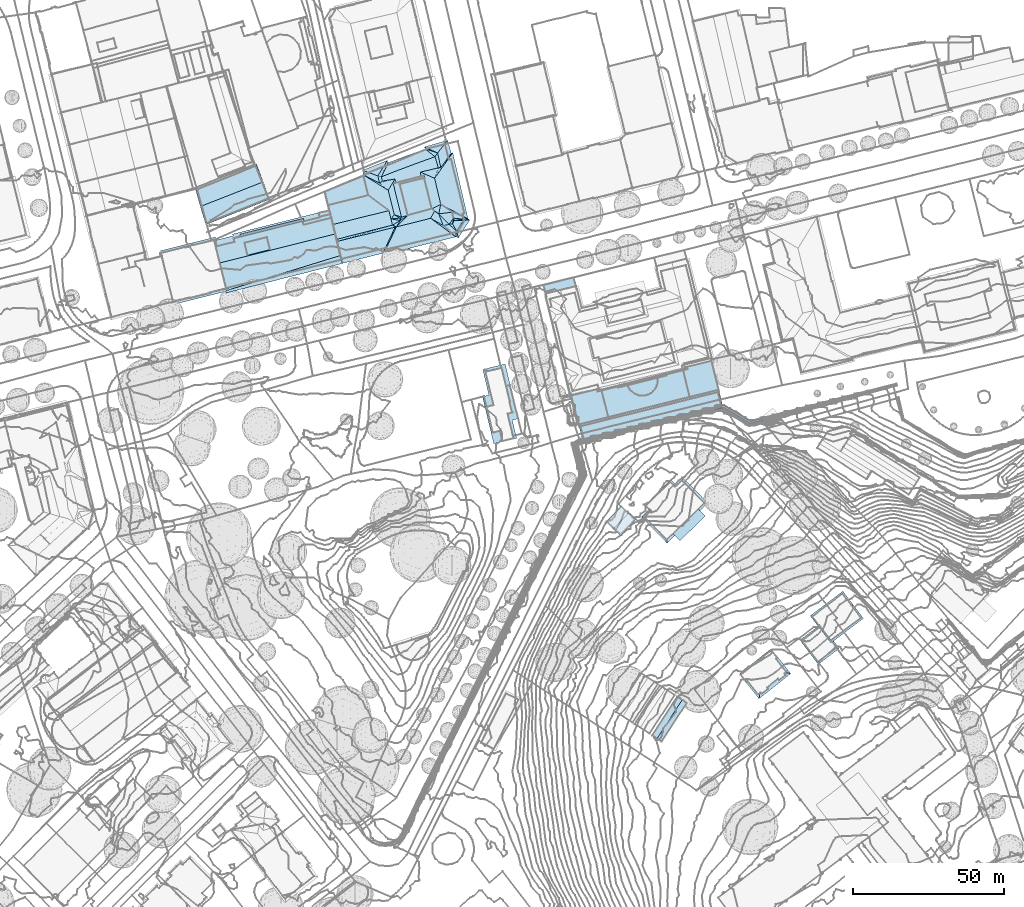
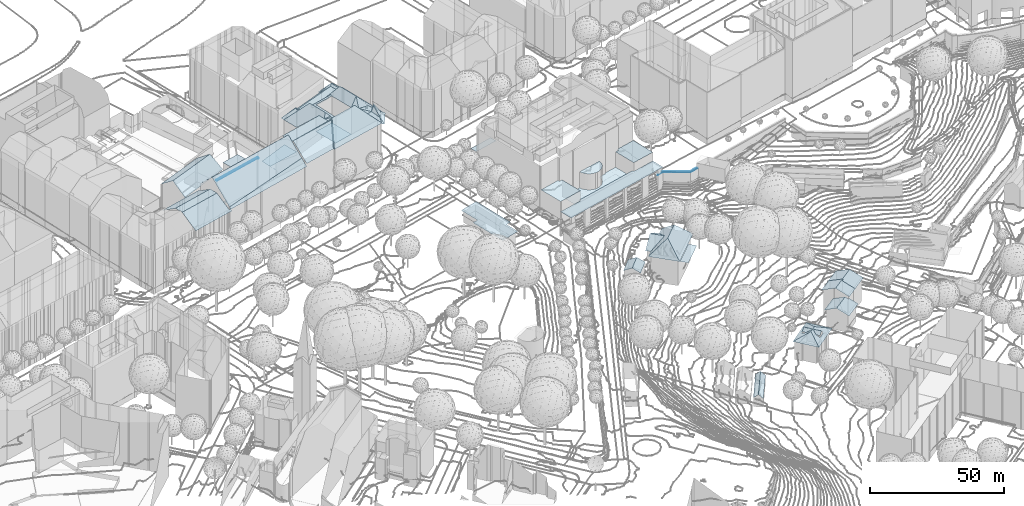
# Not in any storey, part 77 of 477: 26 roofs.
"""IFC4 building model written with IfcOpenShell, lengths in metres."""

from ifc_helpers import new_model, si_unit, frame, origin_with_axes, place, context, subcontext, project, spatial, polygons, element, save


model = new_model("IFC4")

# Units and contexts
model_context = context("Model", 3, precision=1e-05, world=origin_with_axes())
body_context = subcontext(model_context, "Body", "Model", "MODEL_VIEW")
ifc_project = project(units=[si_unit("AREAUNIT", "SQUARE_METRE"), si_unit("LENGTHUNIT", "METRE")], contexts=[model_context])

# Sites, building
site_1_placement = place(None, origin_with_axes())
site_1 = spatial("IfcSite", under=ifc_project, at=site_1_placement, Name="Topoexport Site")
site_2_placement = place(site_1_placement, origin_with_axes())
site_2 = spatial("IfcSite", under=site_1, at=site_2_placement, Name="TPX_BUILDINGS")
building_1_placement = place(site_2_placement, frame((211.8297320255, 101.9383160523, 526.7541), z_axis=(0.0, 0.0, 1.0), x_axis=(1.0, 0.0, 0.0)))
building_1 = spatial("IfcBuilding", under=site_2, at=building_1_placement, Name="Building 18", CompositionType="ELEMENT")

# Roof
roof_1_placement = place(None, frame((211.8297320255, 101.9383160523, 526.7541), z_axis=(0.0, 0.0, 1.0), x_axis=(1.0, 0.0, 0.0)))
element("IfcRoof", 1, at=roof_1_placement, inside=building_1, Name="Roof 60", context=body_context, shape_type="Tessellation", body=[
    polygons([(146.006000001, 221.7910000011, 13.5499), (147.1669999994, 222.0751999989, 13.5499), (146.0230000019, 221.7236000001, 13.5499), (148.7010000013, 222.3691000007, 13.5499), (148.6390000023, 223.2098999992, 13.5499), (147.9849999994, 222.4013999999, 13.5499), (147.8399999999, 223.0126999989, 13.5499), (160.9150000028, 218.754900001, 13.5499), (161.393000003, 218.1689000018, 13.5499), (157.3320000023, 217.1259999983, 13.5499), (157.4409999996, 217.8623000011, 13.5499)], [[[3, 2, 1]], [[2, 3, 4]], [[7, 6, 5]], [[2, 4, 6]], [[10, 9, 8]], [[10, 8, 11]], [[11, 5, 4]], [[4, 5, 6]], [[4, 10, 11]]]),
])

# Building
building_2_placement = place(site_2_placement, frame((336.8067320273, 215.9607160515, 507.462), z_axis=(0.0, 0.0, 1.0), x_axis=(1.0, 0.0, 0.0)))
building_2 = spatial("IfcBuilding", under=site_2, at=building_2_placement, Name="Building 92", CompositionType="ELEMENT")

# Roof
roof_2_placement = place(None, frame((336.8067320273, 215.9607160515, 507.462), z_axis=(0.0, 0.0, 1.0), x_axis=(1.0, 0.0, 0.0)))
element("IfcRoof", 2, at=roof_2_placement, inside=building_2, Name="Roof 0", context=body_context, shape_type="Tessellation", body=[
    polygons([(0.0, 0.0, 4.0656), (8.3090000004, 12.7862000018, 4.0656), (9.8939999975, 11.754900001, 5.5585), (1.5850000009, -1.0311999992, 5.5585), (11.4519999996, 10.7422000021, 3.7816), (3.1429999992, -2.0438999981, 3.7816)], [[[3, 2, 1]], [[1, 4, 3]], [[4, 6, 5]], [[5, 3, 4]]]),
])

# Building
building_3_placement = place(site_2_placement, frame((366.0957320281, 236.0047160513, 506.5151), z_axis=(0.0, 0.0, 1.0), x_axis=(1.0, 0.0, 0.0)))
building_3 = spatial("IfcBuilding", under=site_2, at=building_3_placement, Name="Building 95", CompositionType="ELEMENT")

# Roof
roof_3_placement = place(None, frame((366.0957320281, 236.0047160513, 506.5151), z_axis=(0.0, 0.0, 1.0), x_axis=(1.0, 0.0, 0.0)))
element("IfcRoof", 3, at=roof_3_placement, inside=building_3, Name="Roof 0", context=body_context, shape_type="Tessellation", body=[
    polygons([(10.305999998, -2.427699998, 10.8689), (8.0749999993, -2.2470999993, 9.803), (8.0819999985, 0.3652000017, 10.8689), (9.0289999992, -3.4452999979, 9.803), (10.5029999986, -0.3145000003, 9.803), (11.4569999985, -1.5126999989, 9.803), (9.9329999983, 7.9433999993, 8.4342), (16.5119999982, 0.4678000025, 8.1672), (14.7960000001, 0.6963, 8.8191), (9.3979999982, 1.4131000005, 10.8689), (9.9919999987, 8.6581999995, 8.1672), (6.0289999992, -7.8759999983, 8.1672), (-0.4900000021, 0.3144000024, 8.1672), (0.2569999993, 0.2050999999, 8.4482), (6.7039999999, -0.7324000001, 10.8689), (6.1889999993, -6.1855999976, 8.8061), (5.5029999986, 0.9844000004, 9.803), (4.5529999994, 2.1777000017, 9.803), (5.8299999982, 3.1953000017, 10.8689), (7.930999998, 2.9169999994, 9.803), (6.9809999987, 4.1103000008, 9.803), (6.9809999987, 4.1103000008, 9.0251), (7.686999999, 3.2236000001, 9.6031), (4.5529999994, 2.1777000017, 9.0251), (5.2589999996, 1.2910000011, 9.6031), (9.0289999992, -3.4452999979, 9.0031), (11.4569999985, -1.5126999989, 9.0021), (8.3129999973, -2.5458999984, 9.6031), (10.7410000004, -0.6142999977, 9.6031)], [[[3, 2, 1]], [[4, 1, 2]], [[5, 3, 1]], [[1, 6, 5]], [[9, 8, 7]], [[9, 7, 10]], [[7, 8, 11]], [[14, 13, 12]], [[14, 16, 15]], [[16, 14, 12]], [[19, 18, 17]], [[17, 3, 19]], [[21, 19, 20]], [[3, 20, 19]], [[11, 22, 7]], [[22, 11, 13]], [[7, 22, 23]], [[7, 20, 10]], [[20, 7, 23]], [[10, 20, 3]], [[24, 13, 14]], [[13, 24, 22]], [[24, 14, 25]], [[17, 15, 3]], [[17, 25, 14]], [[14, 15, 17]], [[12, 26, 16]], [[26, 12, 27]], [[16, 26, 28]], [[16, 2, 15]], [[2, 16, 28]], [[15, 2, 3]], [[27, 8, 9]], [[8, 27, 12]], [[27, 9, 29]], [[3, 5, 10]], [[9, 5, 29]], [[5, 9, 10]]]),
])

# Building
building_4_placement = place(site_2_placement, frame((389.7587320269, 255.2674160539, 507.648), z_axis=(0.0, 0.0, 1.0), x_axis=(1.0, 0.0, 0.0)))
building_4 = spatial("IfcBuilding", under=site_2, at=building_4_placement, Name="Building 96", CompositionType="ELEMENT")

# Roof
roof_4_placement = place(None, frame((389.7587320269, 255.2674160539, 507.648), z_axis=(0.0, 0.0, 1.0), x_axis=(1.0, 0.0, 0.0)))
element("IfcRoof", 4, at=roof_4_placement, inside=building_4, Name="Roof 0", context=body_context, shape_type="Tessellation", body=[
    polygons([(-0.7430000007, 0.2694999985, 10.661), (4.5109999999, 4.2304999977, 10.661), (4.9050000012, 3.7089999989, 10.9299), (2.6840000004, -4.2754000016, 13.0067), (7.9470000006, -0.308600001, 13.0067), (10.2269999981, -4.8115000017, 10.9179), (7.436999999, -1.125, 12.8617), (8.1559999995, -0.5850000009, 12.8607), (10.5969999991, -5.2998000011, 10.6609), (6.0439999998, -8.7314999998, 10.6609)], [[[3, 2, 1]], [[5, 3, 4]], [[1, 4, 3]], [[7, 4, 6]], [[5, 7, 8]], [[7, 5, 4]], [[6, 10, 9]], [[6, 4, 10]]]),
])

# Building
building_5_placement = place(site_2_placement, frame((394.6637320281, 258.9764160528, 507.648), z_axis=(0.0, 0.0, 1.0), x_axis=(1.0, 0.0, 0.0)))
building_5 = spatial("IfcBuilding", under=site_2, at=building_5_placement, Name="Building 97", CompositionType="ELEMENT")

# Roof
roof_5_placement = place(None, frame((394.6637320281, 258.9764160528, 507.648), z_axis=(0.0, 0.0, 1.0), x_axis=(1.0, 0.0, 0.0)))
element("IfcRoof", 5, at=roof_5_placement, inside=building_5, Name="Roof 0", context=body_context, shape_type="Tessellation", body=[
    polygons([(0.0, 0.0, 10.9299), (5.1479999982, 4.6992000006, 10.661), (8.5749999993, 0.1543000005, 13.0067), (3.0419999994, -4.0175999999, 13.0067), (-0.3940000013, 0.5214999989, 10.661), (5.3219999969, -8.5205000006, 10.9179), (2.5319999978, -4.8339999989, 12.8617), (3.2509999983, -4.2939999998, 12.8607), (11.9340000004, -4.3018000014, 10.6609), (5.6919999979, -9.0088, 10.6609)], [[[3, 2, 1]], [[3, 1, 4]], [[1, 2, 5]], [[8, 7, 6]], [[6, 10, 9]], [[8, 9, 3]], [[9, 8, 6]], [[8, 3, 4]]]),
])

# Building
building_6_placement = place(site_2_placement, frame((386.3977320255, 247.3445160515, 507.147), z_axis=(0.0, 0.0, 1.0), x_axis=(1.0, 0.0, 0.0)))
building_6 = spatial("IfcBuilding", under=site_2, at=building_6_placement, Name="Building 98", CompositionType="ELEMENT")

# Roof
roof_6_placement = place(None, frame((386.3977320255, 247.3445160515, 507.147), z_axis=(0.0, 0.0, 1.0), x_axis=(1.0, 0.0, 0.0)))
element("IfcRoof", 6, at=roof_6_placement, inside=building_6, Name="Roof 0", context=body_context, shape_type="Tessellation", body=[
    polygons([(7.0370000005, 3.2734999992, 9.0562), (5.950000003, 4.504900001, 8.3482), (6.0480000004, 4.5782000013, 8.3482), (8.0980000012, 1.8731000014, 9.8171), (2.6130000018, -3.4569999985, 10.229), (8.6740000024, 1.1132999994, 10.229), (-0.7829999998, 0.1563000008, 8.0962), (5.5989999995, 4.9678000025, 8.0962), (2.1840000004, -3.7802000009, 10.229), (5.2540000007, -7.8506000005, 8.0962), (9.4880000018, 0.0381000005, 9.6651), (12.2180000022, -2.5995999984, 8.0962), (9.9620000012, 0.3936000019, 9.6641)], [[[3, 2, 1]], [[5, 4, 1]], [[6, 4, 5]], [[2, 8, 7]], [[7, 1, 2]], [[9, 1, 7]], [[1, 9, 5]], [[12, 11, 10]], [[10, 11, 5]], [[9, 10, 5]], [[11, 6, 5]], [[12, 13, 11]]]),
])

# Building
building_7_placement = place(site_2_placement, frame((281.5977320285, 336.7850160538, 537.4764), z_axis=(0.0, 0.0, 1.0), x_axis=(1.0, 0.0, 0.0)))
building_7 = spatial("IfcBuilding", under=site_2, at=building_7_placement, Name="Building 100", CompositionType="ELEMENT")

# Roof
roof_7_placement = place(None, frame((281.5977320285, 336.7850160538, 537.4764), z_axis=(0.0, 0.0, 1.0), x_axis=(1.0, 0.0, 0.0)))
element("IfcRoof", 7, at=roof_7_placement, inside=building_7, Name="Roof 0", context=body_context, shape_type="Tessellation", body=[
    polygons([(6.6339999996, 1.9403999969, 6.0504), (10.9890000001, -16.1358000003, 6.0503), (8.993999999, -16.6152999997, 5.9413), (10.4389999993, -22.6133000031, 5.9413), (2.8789999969, -24.4356000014, 5.5294), (1.2559999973, -8.3057000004, 5.6454), (-0.7810000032, 0.1542999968, 5.6454), (-0.8840000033, -8.8203000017, 5.5294)], [[[3, 2, 1]], [[5, 4, 3]], [[3, 6, 5]], [[1, 7, 6]], [[6, 8, 5]], [[1, 6, 3]]]),
])

# Building
building_8_placement = place(site_2_placement, frame((334.3647320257, 288.1229160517, 521.6208), z_axis=(0.0, 0.0, 1.0), x_axis=(1.0, 0.0, 0.0)))
building_8 = spatial("IfcBuilding", under=site_2, at=building_8_placement, Name="Building 101", CompositionType="ELEMENT")

# Roofs
roof_8_placement = place(None, frame((334.3647320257, 288.1229160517, 521.6208), z_axis=(0.0, 0.0, 1.0), x_axis=(1.0, 0.0, 0.0)))
element("IfcRoof", 8, at=roof_8_placement, inside=building_8, Name="Roof 0", context=body_context, shape_type="Tessellation", body=[
    polygons([(11.6319999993, -7.8271999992, 9.15), (9.3560000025, -5.5156999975, 9.15), (17.6900000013, 2.6709000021, 9.15), (19.9560000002, 0.3720000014, 9.15)], [[[3, 2, 1]], [[4, 3, 1]]]),
])
roof_9_placement = place(None, frame((334.3647320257, 288.1229160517, 521.6208), z_axis=(0.0, 0.0, 1.0), x_axis=(1.0, 0.0, 0.0)))
element("IfcRoof", 9, at=roof_9_placement, inside=building_8, Name="Roof 1", context=body_context, shape_type="Tessellation", body=[
    polygons([(7.2990000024, -7.4619999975, 12.5817), (20.8610000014, 4.6678999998, 11.6748), (7.3910000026, -8.6015999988, 11.6748), (-1.1529999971, 0.0760999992, 11.6748), (0.0529999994, -0.053799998, 12.6237), (6.762000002, -0.7773999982, 17.9022), (8.2280000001, 4.1484000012, 15.3955), (1.6339999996, 2.5223999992, 11.8888), (1.2310000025, 2.4237999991, 11.6748), (12.444000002, 12.0898000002, 12.6667), (13.1119999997, 5.4785000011, 17.9012), (9.7870000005, 10.3857000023, 12.0108), (9.9420000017, 11.0058000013, 11.6748), (12.3170000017, 13.3436999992, 11.6748), (8.5670000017, 12.4013000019, 11.6748), (4.5730000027, 7.8612999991, 15.3955), (4.2690000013, 8.1689000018, 15.3955), (-0.1459999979, 3.821200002, 11.6748), (19.6040000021, 4.7998000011, 12.6847)], [[[3, 2, 1]], [[5, 4, 1]], [[1, 6, 5]], [[3, 1, 4]], [[8, 5, 7]], [[5, 9, 4]], [[9, 5, 8]], [[5, 6, 7]], [[7, 11, 10]], [[11, 7, 6]], [[7, 10, 12]], [[10, 13, 12]], [[13, 10, 14]], [[16, 7, 15]], [[17, 16, 15]], [[12, 13, 15]], [[12, 15, 7]], [[18, 9, 8]], [[18, 8, 16]], [[18, 16, 17]], [[16, 8, 7]], [[1, 19, 11]], [[1, 11, 6]], [[1, 2, 19]], [[19, 2, 10]], [[10, 11, 19]], [[14, 10, 2]]]),
])

# Building
building_9_placement = place(site_2_placement, frame((321.8457320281, 286.6092160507, 525.7514), z_axis=(0.0, 0.0, 1.0), x_axis=(1.0, 0.0, 0.0)))
building_9 = spatial("IfcBuilding", under=site_2, at=building_9_placement, Name="Building 102", CompositionType="ELEMENT")

# Roof
roof_10_placement = place(None, frame((321.8457320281, 286.6092160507, 525.7514), z_axis=(0.0, 0.0, 1.0), x_axis=(1.0, 0.0, 0.0)))
element("IfcRoof", 10, at=roof_10_placement, inside=building_9, Name="Roof 0", context=body_context, shape_type="Tessellation", body=[
    polygons([(7.2049999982, 2.9580000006, 7.8402), (4.5009999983, -4.6552999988, 6.2383), (2.1219999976, -2.3954999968, 7.8402), (9.5849999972, 0.6982000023, 6.2383), (-0.2760000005, -0.1181999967, 6.2384), (4.807, 5.2344000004, 6.2384)], [[[3, 2, 1]], [[4, 1, 2]], [[1, 6, 5]], [[5, 3, 1]]]),
])

# Building
building_10_placement = place(site_2_placement, frame((300.9637320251, 364.7801160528, 537.8963), z_axis=(0.0, 0.0, 1.0), x_axis=(1.0, 0.0, 0.0)))
building_10 = spatial("IfcBuilding", under=site_2, at=building_10_placement, Name="Building 118", CompositionType="ELEMENT")

# Roofs
roof_11_placement = place(None, frame((300.9637320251, 364.7801160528, 537.8963), z_axis=(0.0, 0.0, 1.0), x_axis=(1.0, 0.0, 0.0)))
element("IfcRoof", 11, at=roof_11_placement, inside=building_10, Name="Roof 0", context=body_context, shape_type="Tessellation", body=[
    polygons([(40.7200000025, -29.9072000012, 1.8858), (40.6290000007, -29.5410000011, 1.8858), (46.1230000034, -28.1807000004, 1.8858), (48.307, -36.9941999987, 1.8857), (37.6600000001, -32.3828000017, 1.8858), (37.7380000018, -31.495099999, 1.8858), (37.6650000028, -30.6640999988, 1.8858), (37.4299999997, -33.2432000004, 1.8858), (37.0540000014, -34.0507999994, 1.8858), (36.2420000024, -35.1084000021, 1.8858), (34.376000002, -36.2978999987, 1.8858), (35.5590000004, -35.6816999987, 1.8858), (33.5160000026, -36.5274000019, 1.8858), (24.6359999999, -33.8925999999, 1.8858), (27.7990000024, -33.1084000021, 1.8858), (27.9980000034, -33.6552999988, 1.8858), (28.443, -34.4268000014, 1.8858), (19.2240000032, -34.8456999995, 1.8858), (24.5450000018, -33.5263999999, 1.8858), (29.0160000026, -35.1084000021, 1.8858), (21.4079999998, -43.6601999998, 1.8858), (31.7410000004, -36.5274000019, 1.8858), (32.6290000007, -36.6055000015, 1.8858), (30.074000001, -35.9199000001, 1.8858), (30.881000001, -36.2978999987, 1.8858)], [[[3, 2, 1]], [[4, 3, 1]], [[6, 5, 1]], [[7, 6, 1]], [[8, 1, 5]], [[4, 8, 9]], [[8, 4, 1]], [[4, 9, 10]], [[12, 11, 4]], [[10, 12, 4]], [[4, 11, 13]], [[16, 15, 14]], [[17, 16, 14]], [[14, 19, 18]], [[17, 14, 20]], [[21, 14, 18]], [[23, 22, 21]], [[13, 23, 21]], [[24, 20, 21]], [[25, 21, 22]], [[21, 25, 24]], [[20, 14, 21]], [[13, 21, 4]]]),
])
roof_12_placement = place(None, frame((300.9637320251, 364.7801160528, 537.8963), z_axis=(0.0, 0.0, 1.0), x_axis=(1.0, 0.0, 0.0)))
element("IfcRoof", 12, at=roof_12_placement, inside=building_10, Name="Roof 1", context=body_context, shape_type="Tessellation", body=[
    polygons([(17.8630000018, -35.182599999, 9.588), (21.5789999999, -44.3506000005, 9.588), (11.7410000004, -46.7881000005, 9.588), (9.1720000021, -36.5390999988, 9.588), (17.6770000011, -34.4316999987, 9.588), (19.2240000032, -34.8456999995, 9.588)], [[[3, 2, 1]], [[1, 4, 3]], [[4, 1, 5]], [[6, 1, 2]]]),
])
roof_13_placement = place(None, frame((300.9637320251, 364.7801160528, 537.8963), z_axis=(0.0, 0.0, 1.0), x_axis=(1.0, 0.0, 0.0)))
element("IfcRoof", 13, at=roof_13_placement, inside=building_10, Name="Roof 2", context=body_context, shape_type="Tessellation", body=[
    polygons([(47.3420000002, -27.0811000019, 8.9001), (55.5190000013, -25.0557000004, 8.9001), (47.5280000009, -27.8321000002, 8.9001), (58.0370000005, -35.317400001, 8.9001), (48.4780000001, -37.6865000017, 8.9001), (46.1230000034, -28.1807000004, 8.9001)], [[[3, 2, 1]], [[3, 5, 4]], [[5, 3, 6]], [[3, 4, 2]]]),
])
roof_14_placement = place(None, frame((300.9637320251, 364.7801160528, 537.8963), z_axis=(0.0, 0.0, 1.0), x_axis=(1.0, 0.0, 0.0)))
element("IfcRoof", 14, at=roof_14_placement, inside=building_10, Name="Roof 3", context=body_context, shape_type="Tessellation", body=[
    polygons([(59.3660000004, -40.7344000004, 4.9124), (48.4780000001, -37.6865000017, 4.9124), (58.0370000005, -35.317400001, 4.9124), (21.5789999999, -44.3506000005, 4.9125), (48.307, -36.9941999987, 4.9124), (12.2490000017, -46.6621000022, 4.9125), (11.7280000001, -46.7373000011, 4.9125), (12.2380000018, -46.6172000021, 4.9125), (13.0970000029, -52.1983000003, 4.9125), (21.4079999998, -43.6601999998, 4.9125)], [[[3, 2, 1]], [[1, 2, 4]], [[5, 4, 2]], [[8, 7, 6]], [[4, 6, 9]], [[9, 6, 7]], [[4, 9, 1]], [[10, 4, 5]]]),
])
roof_15_placement = place(None, frame((300.9637320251, 364.7801160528, 537.8963), z_axis=(0.0, 0.0, 1.0), x_axis=(1.0, 0.0, 0.0)))
element("IfcRoof", 15, at=roof_15_placement, inside=building_10, Name="Roof 5", context=body_context, shape_type="Tessellation", body=[
    polygons([(37.4299999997, -33.2432000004, 9.1841), (29.0160000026, -35.1084000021, 9.1841), (37.6600000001, -32.3828000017, 9.1841), (37.0540000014, -34.0507999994, 9.1841), (30.074000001, -35.9199000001, 9.1841), (37.7380000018, -31.495099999, 9.1841), (28.443, -34.4268000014, 9.1841), (36.2420000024, -35.1084000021, 9.1841), (35.5590000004, -35.6816999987, 9.1841), (31.7410000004, -36.5274000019, 9.1841), (34.376000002, -36.2978999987, 9.1841), (32.6290000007, -36.6055000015, 9.1841), (30.881000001, -36.2978999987, 9.1841), (27.9980000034, -33.6552999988, 9.1841), (37.6650000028, -30.6640999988, 9.1841), (33.5160000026, -36.5274000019, 9.1841), (27.7990000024, -33.1084000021, 9.1841)], [[[3, 2, 1]], [[1, 5, 4]], [[7, 3, 6]], [[10, 9, 8]], [[12, 11, 9]], [[13, 8, 4]], [[6, 15, 14]], [[7, 2, 3]], [[14, 7, 6]], [[5, 1, 2]], [[16, 11, 12]], [[10, 12, 9]], [[8, 13, 10]], [[5, 13, 4]], [[14, 15, 17]]]),
])
roof_16_placement = place(None, frame((300.9637320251, 364.7801160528, 537.8963), z_axis=(0.0, 0.0, 1.0), x_axis=(1.0, 0.0, 0.0)))
element("IfcRoof", 16, at=roof_16_placement, inside=building_10, Name="Roof 12", context=body_context, shape_type="Tessellation", body=[
    polygons([(0.7080000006, -2.8544999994, 9.4711), (9.9670000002, 2.4765000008, 9.4711), (10.6750000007, -0.3858000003, 9.4711), (0.0, 0.0, 9.4711)], [[[3, 2, 1]], [[4, 1, 2]]]),
])

# Building
building_11_placement = place(site_2_placement, frame((228.7347320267, 395.6180160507, 538.6455), z_axis=(0.0, 0.0, 1.0), x_axis=(1.0, 0.0, 0.0)))
building_11 = spatial("IfcBuilding", under=site_2, at=building_11_placement, Name="Building 199", CompositionType="ELEMENT")

# Roofs
roof_17_placement = place(None, frame((228.7347320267, 395.6180160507, 538.6455), z_axis=(0.0, 0.0, 1.0), x_axis=(1.0, 0.0, 0.0)))
element("IfcRoof", 17, at=roof_17_placement, inside=building_11, Name="Roof 0", context=body_context, shape_type="Tessellation", body=[
    polygons([(18.6689999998, -18.9736999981, 22.0267), (23.1460000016, -11.6894999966, 27.3042), (19.625, -19.1503999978, 21.6717), (3.9670000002, -16.4013999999, 27.3472), (16.0890000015, -19.6074999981, 22.0277), (5.0789999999, -21.0566999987, 23.1126), (22.2609999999, -10.9980999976, 26.7853), (3.8020000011, -15.7118999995, 26.6483), (21.7710000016, -8.9531999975, 26.7273), (3.3779999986, -13.9375, 26.6823), (21.1030000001, -6.2157999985, 26.7433), (2.6319999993, -10.807599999, 26.7433), (1.1110000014, -4.4423999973, 20.396), (14.3409999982, -1.1757999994, 20.396), (43.4210000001, -12.9111999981, 22.1227), (42.9620000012, -13.4443999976, 21.6717), (42.8729999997, -12.9179999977, 22.1237), (43.3740000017, -13.3447999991, 21.7527), (43.2060000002, -14.8945999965, 20.4278), (41.2419999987, -13.1210999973, 22.2337), (39.0839999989, -11.1718999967, 24.2185), (40.9609999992, -10.7743999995, 24.3575), (37.5469999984, -7.2978999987, 24.8404), (43.2060000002, -14.8945999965, 20.8098), (19.2030000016, -20.8740999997, 20.8098), (21.995000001, -18.7148999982, 22.1097), (34.8830000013, -8.7490999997, 28.1121), (41.7280000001, -13.8037, 22.1067), (20.2829999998, -18.5761999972, 22.6206), (23.5579999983, -11.6083999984, 28.1121), (5.7060000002, -23.6816999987, 20.7758), (5.4219999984, -22.4912, 21.8347), (19.0709999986, -20.3359999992, 20.7788), (42.4719999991, -8.6963, 24.3585), (42.1039999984, -10.6269999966, 26.5843), (35.2960000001, -5.6269999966, 24.7074), (27.3429999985, -7.7919999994, 24.8124), (36.1510000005, -6.3896999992, 25.7693), (41.8900000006, -13.7060999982, 21.8977)], [[[3, 2, 1]], [[4, 1, 2]], [[3, 1, 5]], [[5, 4, 6]], [[4, 5, 1]], [[4, 2, 7]], [[4, 7, 8]], [[10, 7, 9]], [[7, 10, 8]], [[12, 9, 11]], [[9, 12, 10]], [[11, 13, 12]], [[13, 11, 14]], [[17, 16, 15]], [[18, 15, 16]], [[19, 18, 16]], [[20, 19, 16]], [[21, 16, 17]], [[21, 20, 16]], [[21, 17, 22]], [[22, 23, 21]], [[26, 25, 24]], [[28, 27, 26]], [[24, 28, 26]], [[29, 25, 26]], [[27, 30, 29]], [[27, 29, 26]], [[32, 31, 5]], [[6, 32, 5]], [[5, 33, 3]], [[33, 5, 31]], [[30, 2, 3]], [[30, 7, 2]], [[29, 30, 3]], [[3, 25, 29]], [[25, 3, 33]], [[35, 34, 22]], [[15, 35, 22]], [[22, 17, 15]], [[37, 27, 36]], [[30, 27, 37]], [[36, 27, 38]], [[21, 27, 39]], [[28, 24, 39]], [[28, 39, 27]]]),
])
roof_18_placement = place(None, frame((228.7347320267, 395.6180160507, 538.6455), z_axis=(0.0, 0.0, 1.0), x_axis=(1.0, 0.0, 0.0)))
element("IfcRoof", 18, at=roof_18_placement, inside=building_11, Name="Roof 1", context=body_context, shape_type="Tessellation", body=[
    polygons([(24.7540000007, 2.5117000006, 12.8647), (35.2960000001, -5.6269999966, 12.8646), (27.3429999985, -7.7919999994, 12.8646), (32.8029999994, 4.5224000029, 12.8647)], [[[3, 2, 1]], [[4, 1, 2]]]),
])
roof_19_placement = place(None, frame((228.7347320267, 395.6180160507, 538.6455), z_axis=(0.0, 0.0, 1.0), x_axis=(1.0, 0.0, 0.0)))
element("IfcRoof", 19, at=roof_19_placement, inside=building_11, Name="Roof 2", context=body_context, shape_type="Tessellation", body=[
    polygons([(12.7609999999, 5.0957000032, 9.4711), (0.0, 0.0, 9.4711), (12.7360000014, 5.2226000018, 9.4711), (14.3409999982, -1.1757999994, 9.4711), (1.1110000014, -4.4423999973, 9.4711), (1.4510000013, -6.2812999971, 9.4709), (1.436999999, -6.2275999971, 9.4709), (1.8299999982, -7.4208999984, 9.4709), (1.7210000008, -7.4491999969, 9.4709)], [[[3, 2, 1]], [[5, 4, 1]], [[1, 2, 5]], [[8, 7, 6]], [[7, 5, 2]], [[6, 9, 8]], [[8, 5, 7]]]),
])
roof_20_placement = place(None, frame((228.7347320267, 395.6180160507, 538.6455), z_axis=(0.0, 0.0, 1.0), x_axis=(1.0, 0.0, 0.0)))
element("IfcRoof", 20, at=roof_20_placement, inside=building_11, Name="Roof 3", context=body_context, shape_type="Tessellation", body=[
    polygons([(32.8649999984, 5.2031000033, 25.1636), (32.8949999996, 4.5459000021, 25.0356), (24.7540000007, 2.5117000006, 25.1536), (32.8720000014, 5.2431000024, 25.1706), (23.4340000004, 2.9277000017, 25.1876), (32.8740000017, 5.3310000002, 25.1746), (31.7120000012, 5.0254000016, 23.8787), (23.4340000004, 2.9277000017, 23.8787), (23.0590000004, 4.2256000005, 23.8787), (18.5760000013, 4.9287, 23.8787), (18.9479999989, 3.5537, 23.8787), (22.1730000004, 6.3720000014, 23.8787), (25.936999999, 7.7832000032, 23.8787), (29.6770000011, 9.1865000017, 23.8787), (37.4210000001, 7.9004000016, 23.8787), (31.4820000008, 6.4970000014, 23.8787), (36.3379999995, 11.5918000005, 23.8787), (21.1499999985, 8.9306000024, 21.2969), (20.8729999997, 9.6240000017, 20.598), (19.8900000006, 8.5215000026, 21.7129), (20.5659999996, 10.371100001, 20.598), (37.1790000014, 12.826100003, 24.3256), (38.2259999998, 8.0517000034, 24.3356), (33.3299999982, 13.9375, 20.906), (33.0179999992, 14.1806000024, 20.598), (32.6750000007, 13.6689000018, 20.934), (17.449000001, 5.2617000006, 24.3026), (17.9719999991, 2.9267000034, 24.3256), (13.1319999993, 5.5293000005, 20.955), (12.6710000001, 5.558600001, 20.598), (12.3779999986, 7.0556000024, 20.598), (19.2870000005, 8.2744000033, 22.1179), (24.6409999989, -8.6933999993, 26.6483), (24.8509999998, -9.5175999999, 26.3523), (21.7710000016, -8.9531999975, 26.7273), (22.2609999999, -10.9980999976, 26.7853), (27.3429999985, -7.7919999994, 24.8124), (23.5579999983, -11.6083999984, 28.1121), (22.5219999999, 2.7060000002, 25.1776), (25.2419999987, -8.3622999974, 24.8324), (45.1660000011, -8.9941999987, 22.1237), (45.6339999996, -9.4638999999, 22.1227), (42.4719999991, -8.6963, 24.3585), (42.0009999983, -6.7197999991, 24.2085), (42.0009999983, -6.7197999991, 24.2475), (37.5469999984, -7.2978999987, 24.8404), (40.9609999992, -10.7743999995, 24.3575), (45.7699999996, -8.9706999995, 21.6527), (45.875, -8.3437999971, 21.4727), (47.2309999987, -8.9111999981, 20.5148), (45.5839999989, -8.2216999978, 21.6777), (45.8729999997, -9.3808999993, 21.8827), (45.8889999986, -9.4463, 21.9267), (47.8409999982, -9.3115999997, 20.4288), (43.3740000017, -13.3447999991, 21.7527), (44.0410000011, -15.2343999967, 20.4238), (43.2060000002, -14.8945999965, 20.4278), (43.4210000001, -12.9111999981, 22.1227), (43.5269999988, -13.3066999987, 21.8337), (40.745000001, 11.4199000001, 21.6309), (40.4200000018, 12.7412, 21.6579), (41.7080000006, 12.7070000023, 20.598), (39.3669999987, 15.5918000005, 21.8629), (40.4910000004, 17.0117000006, 20.598), (45.7930000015, -7.1689999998, 21.7637), (47.2309999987, -8.9111999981, 20.7848), (45.5329999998, -8.0156999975, 22.2007), (38.2120000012, -4.1493999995, 28.3072), (36.1909999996, 4.4638000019, 28.2983), (42.1970000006, 12.9306000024, 20.598), (40.8429999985, 11.0224000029, 22.3338), (35.2960000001, -5.6269999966, 24.9944), (36.1510000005, -6.3896999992, 25.7693), (34.8830000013, -8.7490999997, 28.1121), (32.8029999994, 4.5224000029, 24.9386), (32.6649999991, 5.2773000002, 24.9746), (32.6229999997, 5.2568000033, 24.9346), (34.006000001, 14.2695000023, 21.6229), (32.8029999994, 14.8164000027, 20.598), (20.868999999, 0.4726000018, 28.3673), (12.7109999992, 5.3545000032, 20.598), (12.7609999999, 5.0957000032, 20.598), (22.8859999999, -7.566399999, 28.3581), (22.6609999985, 2.7392000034, 24.9796), (42.6920000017, -9.5058999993, 26.5843), (45.5839999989, -8.2216999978, 21.8627), (42.1039999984, -10.6269999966, 26.5843), (40.7969999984, 11.2109000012, 21.9159), (39.0839999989, -11.1718999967, 24.2185), (21.1030000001, -6.2158999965, 26.7433), (14.3409999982, -1.1757999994, 20.598), (36.1510000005, -6.3896999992, 25.5694), (37.5469999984, -7.2978999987, 24.6404), (35.2960000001, -5.6269999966, 24.7944)], [[[3, 2, 1]], [[1, 4, 3]], [[4, 6, 5]], [[5, 3, 4]], [[9, 8, 7]], [[11, 9, 10]], [[10, 9, 12]], [[9, 13, 12]], [[16, 15, 14]], [[16, 13, 9]], [[16, 14, 13]], [[14, 15, 17]], [[16, 9, 7]], [[10, 12, 18]], [[10, 18, 19]], [[20, 10, 19]], [[19, 21, 20]], [[23, 22, 17]], [[23, 17, 15]], [[17, 22, 24]], [[25, 24, 22]], [[26, 14, 17]], [[26, 24, 25]], [[24, 26, 17]], [[29, 28, 27]], [[28, 29, 30]], [[31, 30, 29]], [[29, 27, 31]], [[27, 10, 32]], [[32, 20, 21]], [[20, 32, 10]], [[32, 21, 31]], [[31, 27, 32]], [[27, 28, 10]], [[10, 28, 11]], [[35, 34, 33]], [[34, 35, 36]], [[38, 37, 34]], [[39, 3, 5]], [[39, 40, 3]], [[3, 40, 37]], [[28, 9, 11]], [[43, 42, 41]], [[41, 44, 43]], [[46, 43, 45]], [[43, 46, 47]], [[50, 49, 48]], [[48, 49, 51]], [[44, 41, 48]], [[44, 48, 51]], [[41, 42, 48]], [[52, 50, 48]], [[52, 48, 42]], [[42, 53, 52]], [[52, 54, 50]], [[54, 52, 53]], [[57, 56, 55]], [[55, 59, 58]], [[59, 55, 56]], [[22, 23, 60]], [[60, 62, 61]], [[60, 61, 22]], [[61, 62, 63]], [[61, 63, 22]], [[63, 62, 64]], [[67, 66, 65]], [[69, 68, 67]], [[69, 67, 65]], [[65, 66, 70]], [[65, 71, 69]], [[71, 65, 70]], [[46, 68, 72]], [[74, 46, 73]], [[2, 72, 69]], [[72, 2, 75]], [[2, 69, 1]], [[26, 25, 19]], [[14, 26, 18]], [[18, 13, 14]], [[12, 13, 18]], [[18, 26, 19]], [[69, 6, 4]], [[6, 69, 16]], [[4, 1, 69]], [[6, 16, 76]], [[76, 16, 77]], [[59, 56, 54]], [[58, 59, 53]], [[58, 53, 42]], [[53, 59, 54]], [[79, 25, 78]], [[25, 22, 78]], [[63, 64, 79]], [[78, 22, 63]], [[79, 78, 63]], [[15, 69, 23]], [[16, 69, 15]], [[77, 16, 7]], [[30, 80, 28]], [[80, 30, 81]], [[80, 81, 82]], [[80, 9, 28]], [[40, 80, 83]], [[40, 83, 33]], [[35, 33, 83]], [[34, 40, 33]], [[38, 34, 36]], [[34, 37, 40]], [[8, 9, 84]], [[39, 84, 9]], [[85, 42, 43]], [[86, 66, 67]], [[68, 44, 86]], [[68, 86, 67]], [[45, 68, 46]], [[58, 85, 87]], [[85, 58, 42]], [[43, 87, 85]], [[23, 69, 88]], [[71, 70, 88]], [[71, 88, 69]], [[70, 62, 88]], [[60, 23, 88]], [[60, 88, 62]], [[69, 72, 68]], [[74, 89, 46]], [[83, 90, 35]], [[90, 83, 80]], [[80, 82, 91]], [[80, 91, 90]], [[39, 9, 80]], [[80, 40, 39]], [[46, 72, 73]], [[94, 93, 92]]]),
])

# Building
building_12_placement = place(site_2_placement, frame((171.6827320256, 464.931416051, 544.4901), z_axis=(0.0, 0.0, 1.0), x_axis=(1.0, 0.0, 0.0)))
building_12 = spatial("IfcBuilding", under=site_2, at=building_12_placement, Name="Building 223", CompositionType="ELEMENT")

# Roof
roof_21_placement = place(None, frame((171.6827320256, 464.931416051, 544.4901), z_axis=(0.0, 0.0, 1.0), x_axis=(1.0, 0.0, 0.0)))
element("IfcRoof", 21, at=roof_21_placement, inside=building_12, Name="Roof 0", context=body_context, shape_type="Tessellation", body=[
    polygons([(16.3780000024, -73.9764999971, 12.1367), (16.4210000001, -74.1268999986, 12.0287), (15.8440000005, -74.186499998, 12.1367), (37.4580000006, -71.9287, 8.0801), (36.3260000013, -66.1415999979, 12.1367), (38.8060000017, -71.7879999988, 7.8271), (36.6099999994, -66.0301999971, 12.1367), (17.6390000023, -80.2127999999, 7.456), (33.6680000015, -60.3954999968, 7.4561), (34.3580000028, -60.125, 7.4561), (14.6510000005, -67.8622999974, 7.4561), (14.1380000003, -68.1405999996, 7.5091), (14.1190000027, -68.0711999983, 7.4561), (14.2369999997, -68.4891999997, 7.7761)], [[[3, 2, 1]], [[1, 2, 4]], [[4, 6, 5]], [[7, 5, 6]], [[4, 5, 1]], [[3, 8, 2]], [[4, 2, 8]], [[6, 4, 8]], [[10, 9, 7]], [[5, 7, 9]], [[11, 1, 5]], [[5, 9, 11]], [[11, 13, 12]], [[3, 1, 14]], [[12, 14, 11]], [[14, 1, 11]]]),
])

# Building
building_13_placement = place(site_2_placement, frame((192.1757320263, 379.5145160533, 538.5554), z_axis=(0.0, 0.0, 1.0), x_axis=(1.0, 0.0, 0.0)))
building_13 = spatial("IfcBuilding", under=site_2, at=building_13_placement, Name="Building 229", CompositionType="ELEMENT")

# Roofs
roof_22_placement = place(None, frame((192.1757320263, 379.5145160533, 538.5554), z_axis=(0.0, 0.0, 1.0), x_axis=(1.0, 0.0, 0.0)))
element("IfcRoof", 22, at=roof_22_placement, inside=building_13, Name="Roof 0", context=body_context, shape_type="Tessellation", body=[
    polygons([(0.8410000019, -1.9375, 6.9833), (0.5670000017, -0.808600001, 6.9833), (6.7259999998, -0.5030000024, 6.9833), (-0.0009999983, 0.0, 6.9833), (0.2219999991, -0.8956000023, 6.9833), (6.5610000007, 0.6952999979, 6.9833), (6.1140000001, 1.5340999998, 6.9833), (9.6050000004, 1.9208999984, 6.9833), (5.9710000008, 2.1034999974, 6.9833), (29.0920000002, 6.7674999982, 6.9833), (6.4389999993, 0.6464000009, 6.9833), (34.8520000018, 7.5946999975, 6.9833), (29.2349999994, 6.1952999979, 6.9833), (34.8090000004, 7.7840999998, 6.9833), (8.5080000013, 1.4793999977, 6.9833), (8.5780000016, 1.2010999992, 6.9833), (38.3520000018, 8.6717999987, 6.9833), (37.993999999, 9.875, 6.9833), (37.9389999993, 10.1229999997, 6.9833)], [[[3, 2, 1]], [[5, 2, 4]], [[2, 6, 4]], [[4, 8, 7]], [[10, 9, 7]], [[2, 3, 11]], [[14, 13, 12]], [[6, 15, 4]], [[8, 4, 15]], [[16, 15, 6]], [[2, 11, 6]], [[10, 14, 17]], [[10, 13, 14]], [[17, 18, 10]], [[18, 19, 10]], [[19, 9, 10]], [[10, 7, 8]]]),
])
roof_23_placement = place(None, frame((192.1757320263, 379.5145160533, 538.5554), z_axis=(0.0, 0.0, 1.0), x_axis=(1.0, 0.0, 0.0)))
element("IfcRoof", 23, at=roof_23_placement, inside=building_13, Name="Roof 1", context=body_context, shape_type="Tessellation", body=[
    polygons([(42.2650000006, -7.5782000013, 19.588), (3.7120000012, -16.6240999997, 20.105), (13.3830000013, -13.6475000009, 20.604), (41.6380000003, -4.9532000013, 22.0628), (41.9809999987, -6.3877000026, 20.7099), (3.8960000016, -17.322300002, 19.4281)], [[[3, 2, 1]], [[3, 5, 4]], [[5, 3, 1]], [[1, 2, 6]]]),
])
roof_24_placement = place(None, frame((192.1757320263, 379.5145160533, 538.5554), z_axis=(0.0, 0.0, 1.0), x_axis=(1.0, 0.0, 0.0)))
element("IfcRoof", 24, at=roof_24_placement, inside=building_13, Name="Roof 2", context=body_context, shape_type="Tessellation", body=[
    polygons([(29.1900000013, 6.373999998, 19.4131), (8.5780000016, 1.2010999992, 19.4131), (29.4479999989, 7.2802000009, 19.4131), (8.3790000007, 1.995099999, 19.4131), (29.6920000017, 6.3094999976, 19.4131), (29.2349999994, 6.1952999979, 19.4131)], [[[3, 2, 1]], [[2, 3, 4]], [[6, 5, 1]], [[1, 5, 3]]]),
])
roof_25_placement = place(None, frame((192.1757320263, 379.5145160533, 538.5554), z_axis=(0.0, 0.0, 1.0), x_axis=(1.0, 0.0, 0.0)))
element("IfcRoof", 25, at=roof_25_placement, inside=building_13, Name="Roof 3", context=body_context, shape_type="Tessellation", body=[
    polygons([(18.4120000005, -2.9873000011, 28.6892), (11.0020000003, -4.8476999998, 28.6892), (9.9880000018, -0.7998000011, 28.5792), (17.3969999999, 1.0594999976, 28.5792), (41.6380000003, -4.9532000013, 22.0628), (13.3830000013, -13.6475000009, 20.604), (40.4420000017, 0.0506999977, 26.8834), (39.936999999, 2.1659999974, 28.9202), (1.8319999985, -7.3955000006, 28.9202), (1.432, -7.496100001, 28.9202), (3.7120000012, -16.6240999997, 20.105), (9.9880000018, -0.7998000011, 24.6616), (10.9499999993, -4.6416000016, 28.4832), (-0.193, -1.0, 22.4578), (0.2219999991, -0.8955000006, 22.4578), (0.5670000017, -0.808600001, 22.4578), (6.5610000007, 0.6952999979, 22.4578), (18.3599999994, -2.7822999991, 28.4832), (39.3830000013, 4.4872999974, 26.6174), (17.3969999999, 1.0594999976, 24.6626), (29.1900000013, 6.373999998, 22.4578), (34.8090000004, 7.7840999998, 22.4578), (38.3819999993, 8.6805999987, 22.4578)], [[[3, 2, 1]], [[1, 4, 3]], [[7, 6, 5]], [[9, 7, 8]], [[9, 10, 6]], [[11, 6, 10]], [[9, 6, 7]], [[12, 10, 9]], [[2, 13, 9]], [[9, 1, 2]], [[14, 10, 12]], [[12, 15, 14]], [[12, 16, 15]], [[16, 12, 17]], [[12, 9, 13]], [[18, 1, 8]], [[8, 19, 18]], [[1, 9, 8]], [[18, 19, 20]], [[20, 21, 17]], [[19, 21, 20]], [[19, 22, 21]], [[19, 23, 22]], [[20, 17, 12]]]),
])

# Building
building_14_placement = place(site_2_placement, frame((174.5787320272, 375.3924160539, 537.4785), z_axis=(0.0, 0.0, 1.0), x_axis=(1.0, 0.0, 0.0)))
building_14 = spatial("IfcBuilding", under=site_2, at=building_14_placement, Name="Building 231", CompositionType="ELEMENT")

# Roof
roof_26_placement = place(None, frame((174.5787320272, 375.3924160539, 537.4785), z_axis=(0.0, 0.0, 1.0), x_axis=(1.0, 0.0, 0.0)))
element("IfcRoof", 26, at=roof_26_placement, inside=building_14, Name="Roof 0", context=body_context, shape_type="Tessellation", body=[
    polygons([(2.4510000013, -9.818400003, 23.7517), (19.0949999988, -1.9277000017, 23.7517), (19.9679999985, -5.4502000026, 23.7517), (1.5749999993, -6.2988000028, 23.7517), (18.7069999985, 2.25, 21.034), (18.1640000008, 3.3134999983, 20.272), (17.9519999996, 5.2782999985, 18.9892), (0.2809999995, -1.1045000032, 20.245), (0.0, 0.0, 19.4981), (17.8189999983, 3.2264999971, 20.272), (-0.188000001, 0.753899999, 18.9892), (18.438000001, 2.1845999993, 21.033), (4.2300000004, -16.9580000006, 18.9891), (4.0529999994, -16.2578000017, 19.4561), (21.5590000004, -11.8701000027, 19.4701), (22.368999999, -12.433600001, 18.9891), (21.9419999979, -11.7754000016, 19.4691), (21.8889999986, -11.5615000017, 19.6121), (22.1359999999, -11.501000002, 19.6121)], [[[3, 2, 1]], [[4, 1, 2]], [[7, 6, 5]], [[10, 9, 8]], [[9, 10, 7]], [[7, 10, 6]], [[11, 9, 7]], [[4, 2, 10]], [[8, 4, 10]], [[6, 12, 5]], [[15, 14, 13]], [[17, 15, 16]], [[16, 15, 13]], [[3, 1, 15]], [[15, 1, 14]], [[17, 19, 18]], [[17, 16, 19]]]),
])

save(model, "model.ifc")
